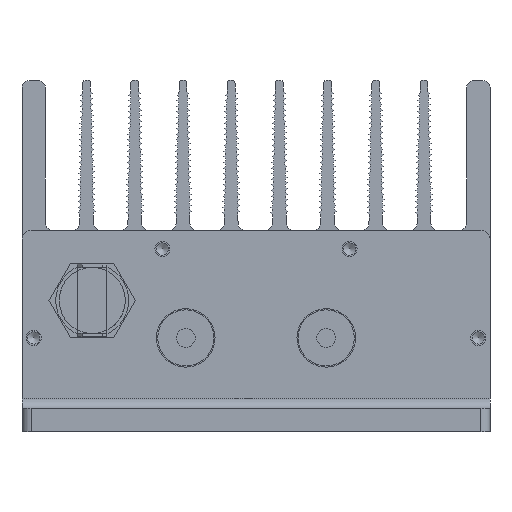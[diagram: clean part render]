
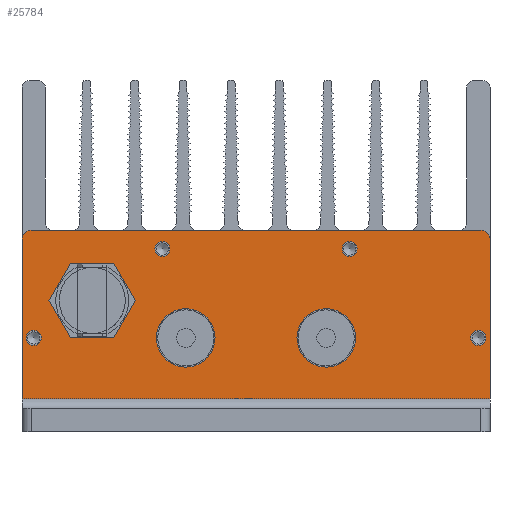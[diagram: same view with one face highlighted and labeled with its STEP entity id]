
A CAD part, front view. The second image highlights one B-rep face of the part: STEP entity #25784.
In plain terms, the highlighted planar face has unit normal (0, -1, 0).
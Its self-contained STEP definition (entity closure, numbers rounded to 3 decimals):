
#1090=LINE($,#37187,#4540);
#1091=LINE($,#37209,#4541);
#1092=LINE($,#37210,#4542);
#1093=LINE($,#37211,#4543);
#4540=VECTOR($,#29885,100.);
#4541=VECTOR($,#29912,34.);
#4542=VECTOR($,#29913,34.);
#4543=VECTOR($,#29914,96.);
#6974=PLANE($,#27180);
#8153=FACE_BOUND($,#9582,.T.);
#8154=FACE_BOUND($,#9583,.T.);
#8155=FACE_BOUND($,#9584,.T.);
#8156=FACE_BOUND($,#9585,.T.);
#8157=FACE_BOUND($,#9586,.T.);
#8158=FACE_BOUND($,#9587,.T.);
#8159=FACE_BOUND($,#9588,.T.);
#8160=FACE_BOUND($,#9589,.T.);
#9582=EDGE_LOOP($,(#18370));
#9583=EDGE_LOOP($,(#18371));
#9584=EDGE_LOOP($,(#18372));
#9585=EDGE_LOOP($,(#18373,#18374,#18375,#18376,#18377,#18378));
#9586=EDGE_LOOP($,(#18379));
#9587=EDGE_LOOP($,(#18380));
#9588=EDGE_LOOP($,(#18381));
#9589=EDGE_LOOP($,(#18382));
#10813=CIRCLE($,#27020,6.8);
#10890=CIRCLE($,#27132,6.25);
#10891=CIRCLE($,#27134,6.25);
#10903=CIRCLE($,#27153,2.);
#10905=CIRCLE($,#27156,2.);
#10913=CIRCLE($,#27170,1.6);
#10915=CIRCLE($,#27173,1.6);
#10917=CIRCLE($,#27176,1.6);
#10919=CIRCLE($,#27179,1.6);
#11035=VERTEX_POINT($,#34941);
#12092=VERTEX_POINT($,#37102);
#12093=VERTEX_POINT($,#37105);
#12108=VERTEX_POINT($,#37141);
#12109=VERTEX_POINT($,#37143);
#12112=VERTEX_POINT($,#37150);
#12113=VERTEX_POINT($,#37152);
#12124=VERTEX_POINT($,#37183);
#12125=VERTEX_POINT($,#37185);
#12127=VERTEX_POINT($,#37191);
#12129=VERTEX_POINT($,#37196);
#12131=VERTEX_POINT($,#37201);
#12133=VERTEX_POINT($,#37206);
#13503=EDGE_CURVE($,#11035,#11035,#10813,.T.);
#14572=EDGE_CURVE($,#12092,#12092,#10890,.T.);
#14573=EDGE_CURVE($,#12093,#12093,#10891,.T.);
#14588=EDGE_CURVE($,#12108,#12109,#10903,.T.);
#14592=EDGE_CURVE($,#12112,#12113,#10905,.T.);
#14609=EDGE_CURVE($,#12125,#12124,#1090,.T.);
#14611=EDGE_CURVE($,#12127,#12127,#10913,.T.);
#14613=EDGE_CURVE($,#12129,#12129,#10915,.T.);
#14615=EDGE_CURVE($,#12131,#12131,#10917,.T.);
#14617=EDGE_CURVE($,#12133,#12133,#10919,.T.);
#14618=EDGE_CURVE($,#12108,#12124,#1091,.T.);
#14619=EDGE_CURVE($,#12113,#12125,#1092,.T.);
#14620=EDGE_CURVE($,#12109,#12112,#1093,.T.);
#18370=ORIENTED_EDGE($,*,*,#13503,.T.);
#18371=ORIENTED_EDGE($,*,*,#14572,.T.);
#18372=ORIENTED_EDGE($,*,*,#14573,.T.);
#18373=ORIENTED_EDGE($,*,*,#14588,.F.);
#18374=ORIENTED_EDGE($,*,*,#14618,.T.);
#18375=ORIENTED_EDGE($,*,*,#14609,.F.);
#18376=ORIENTED_EDGE($,*,*,#14619,.F.);
#18377=ORIENTED_EDGE($,*,*,#14592,.F.);
#18378=ORIENTED_EDGE($,*,*,#14620,.F.);
#18379=ORIENTED_EDGE($,*,*,#14611,.T.);
#18380=ORIENTED_EDGE($,*,*,#14613,.T.);
#18381=ORIENTED_EDGE($,*,*,#14615,.T.);
#18382=ORIENTED_EDGE($,*,*,#14617,.T.);
#25784=ADVANCED_FACE($,(#8153,#8154,#8155,#8156,#8157,#8158,#8159,#8160),
#6974,.F.);
#27020=AXIS2_PLACEMENT_3D($,#34942,#28582,#28583);
#27132=AXIS2_PLACEMENT_3D($,#37103,#29798,#29799);
#27134=AXIS2_PLACEMENT_3D($,#37106,#29802,#29803);
#27153=AXIS2_PLACEMENT_3D($,#37144,#29843,#29844);
#27156=AXIS2_PLACEMENT_3D($,#37153,#29851,#29852);
#27170=AXIS2_PLACEMENT_3D($,#37192,#29890,#29891);
#27173=AXIS2_PLACEMENT_3D($,#37197,#29896,#29897);
#27176=AXIS2_PLACEMENT_3D($,#37202,#29902,#29903);
#27179=AXIS2_PLACEMENT_3D($,#37207,#29908,#29909);
#27180=AXIS2_PLACEMENT_3D($,#37208,#29910,#29911);
#28582=DIRECTION('center_axis',(0.,1.,0.));
#28583=DIRECTION('ref_axis',(-1.,0.,0.));
#29798=DIRECTION('center_axis',(0.,1.,0.));
#29799=DIRECTION('ref_axis',(1.,0.,0.));
#29802=DIRECTION('center_axis',(0.,1.,0.));
#29803=DIRECTION('ref_axis',(1.,0.,0.));
#29843=DIRECTION('center_axis',(0.,1.,0.));
#29844=DIRECTION('ref_axis',(-0.707,0.,0.707));
#29851=DIRECTION('center_axis',(0.,1.,0.));
#29852=DIRECTION('ref_axis',(0.707,0.,0.707));
#29885=DIRECTION($,(-1.,0.,0.));
#29890=DIRECTION('center_axis',(0.,1.,0.));
#29891=DIRECTION('ref_axis',(1.,0.,0.));
#29896=DIRECTION('center_axis',(0.,1.,0.));
#29897=DIRECTION('ref_axis',(1.,0.,0.));
#29902=DIRECTION('center_axis',(0.,1.,0.));
#29903=DIRECTION('ref_axis',(1.,0.,0.));
#29908=DIRECTION('center_axis',(0.,1.,0.));
#29909=DIRECTION('ref_axis',(1.,0.,0.));
#29910=DIRECTION('center_axis',(0.,1.,0.));
#29911=DIRECTION('ref_axis',(0.,0.,1.));
#29912=DIRECTION($,(0.,0.,-1.));
#29913=DIRECTION($,(0.,0.,-1.));
#29914=DIRECTION($,(1.,0.,0.));
#34941=CARTESIAN_POINT('',(-64.2,-5.,-12.));
#34942=CARTESIAN_POINT('Origin',(-71.,-5.,-12.));
#37102=CARTESIAN_POINT('',(-14.75,-5.,-20.));
#37103=CARTESIAN_POINT('Origin',(-21.,-5.,-20.));
#37105=CARTESIAN_POINT('',(-44.75,-5.,-20.));
#37106=CARTESIAN_POINT('Origin',(-51.,-5.,-20.));
#37141=CARTESIAN_POINT('',(-86.,-5.,1.));
#37143=CARTESIAN_POINT('',(-84.,-5.,3.));
#37144=CARTESIAN_POINT('Origin',(-84.,-5.,1.));
#37150=CARTESIAN_POINT('',(12.,-5.,3.));
#37152=CARTESIAN_POINT('',(14.,-5.,1.));
#37153=CARTESIAN_POINT('Origin',(12.,-5.,1.));
#37183=CARTESIAN_POINT('',(-86.,-5.,-33.));
#37185=CARTESIAN_POINT('',(14.,-5.,-33.));
#37187=CARTESIAN_POINT($,(-86.,-5.,-33.));
#37191=CARTESIAN_POINT('',(13.1,-5.,-20.));
#37192=CARTESIAN_POINT('Origin',(11.5,-5.,-20.));
#37196=CARTESIAN_POINT('',(-81.9,-5.,-20.));
#37197=CARTESIAN_POINT('Origin',(-83.5,-5.,-20.));
#37201=CARTESIAN_POINT('',(-14.4,-5.,-1.));
#37202=CARTESIAN_POINT('Origin',(-16.,-5.,-1.));
#37206=CARTESIAN_POINT('',(-54.4,-5.,-1.));
#37207=CARTESIAN_POINT('Origin',(-56.,-5.,-1.));
#37208=CARTESIAN_POINT('Origin',(-86.,-5.,3.));
#37209=CARTESIAN_POINT($,(-86.,-5.,3.));
#37210=CARTESIAN_POINT($,(14.,-5.,3.));
#37211=CARTESIAN_POINT($,(-86.,-5.,3.));
